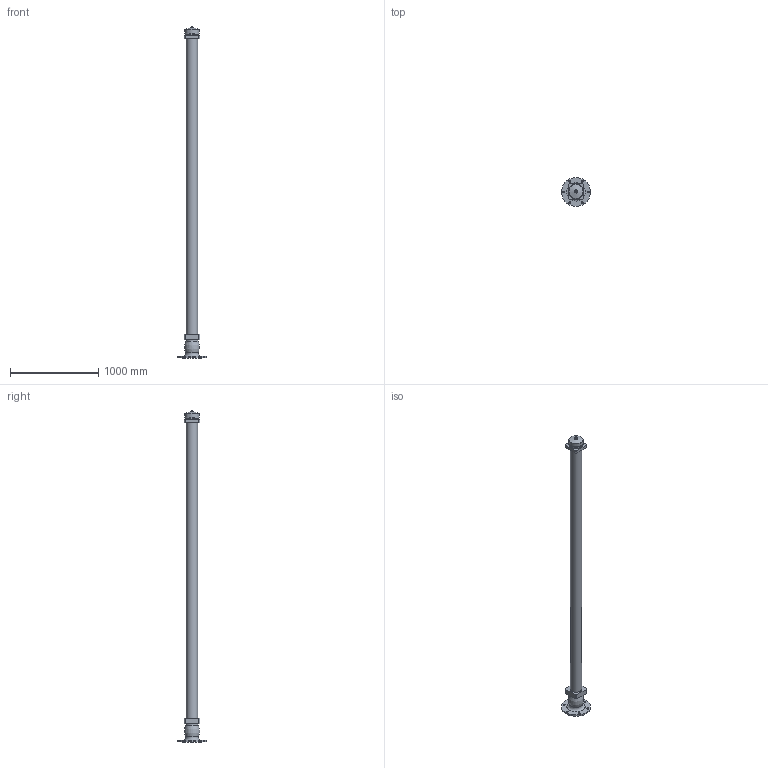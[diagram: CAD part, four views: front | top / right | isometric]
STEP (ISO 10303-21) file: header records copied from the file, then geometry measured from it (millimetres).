
FILE_DESCRIPTION(('STEP AP203'), '1');
FILE_NAME('Ãèäðàíò GPP 3750 ïîæàðíûé ïîäçåìíûé', '', ('UNSPECIFIED'), ('UNSPECIFIED'), 'ASCON STEP Converter 1.6', 'ASCON Math Kernel', '');
FILE_SCHEMA(('CONFIG_CONTROL_DESIGN'));
Length unit declared in the file: millimetre
Bounding box: 330 x 330 x 3772 mm (x, y, z)
Volume: 53680827.9 mm3; surface area: 1820062.4 mm2
Topology: 1 solids, 1 shells, 47 faces, 104 edges, 67 vertices
Faces by surface type: plane 26, cylinder 12, cone 7, torus 2
Full cylindrical faces by diameter (mm): 20 x1, 22 x6, 129 x1, 142 x1, 143 x1, 157.302 x1, 160 x1
Entity records: 1617 total; most frequent: DIRECTION 212, CARTESIAN_POINT 196, ORIENTED_EDGE 164, EDGE_LOOP 88, AXIS2_PLACEMENT_3D 82, EDGE_CURVE 82, VERTEX_POINT 66, COLOUR_RGB 48
